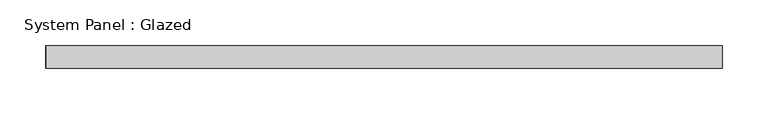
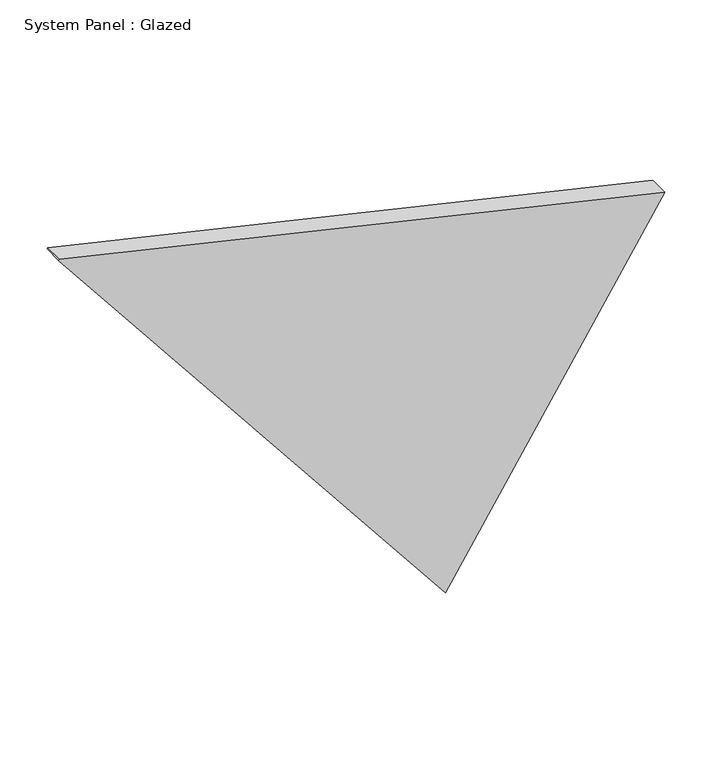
"""IFC4 building model written with IfcOpenShell, lengths in millimetres: plate geometry, System Panel : Glazed."""

from ifc_helpers import new_model, si_unit, frame, origin, place, context, project, spatial, polyline, outline, extrude, source, transform, mapped, element, save


def system_panel_glazed_81826dec(model_context):
    return source(origin(), model_context, "Body", "SweptSolid", [
        extrude(outline(polyline([(0.0, 102.984894), (425.467544, 371.9407581), (598.3886795, -371.0450478), (596.9717345, -371.9407581), (0.0, 102.984894)])), frame((0.0, -49.5, 0.0), z_axis=(0.0, 1.0, 0.0), x_axis=(0.0, 0.0, 1.0)), (0.0, 0.0, 1.0), 25.0),
    ])


if __name__ == "__main__":
    model = new_model("IFC4")
    model_context = context("Model", 3, world=origin())
    ifc_project = project(units=[si_unit("LENGTHUNIT", "METRE", prefix="MILLI")], contexts=[model_context])
    site = spatial("IfcSite", under=ifc_project)
    building = spatial("IfcBuilding", under=site)
    placement = place(None, origin())
    system_panel_glazed_shape = system_panel_glazed_81826dec(model_context)
    element("IfcPlate", 1, ObjectType="System Panel : Glazed", at=placement, inside=building, context=model_context, shape_type="MappedRepresentation", body=[
        mapped(system_panel_glazed_shape, transform((0.0, 0.0, 0.0), x_axis=(1.0, 0.0, 0.0), y_axis=(0.0, 1.0, 0.0), z_axis=(0.0, 0.0, 1.0))),
    ])
    save(model, "model.ifc")
